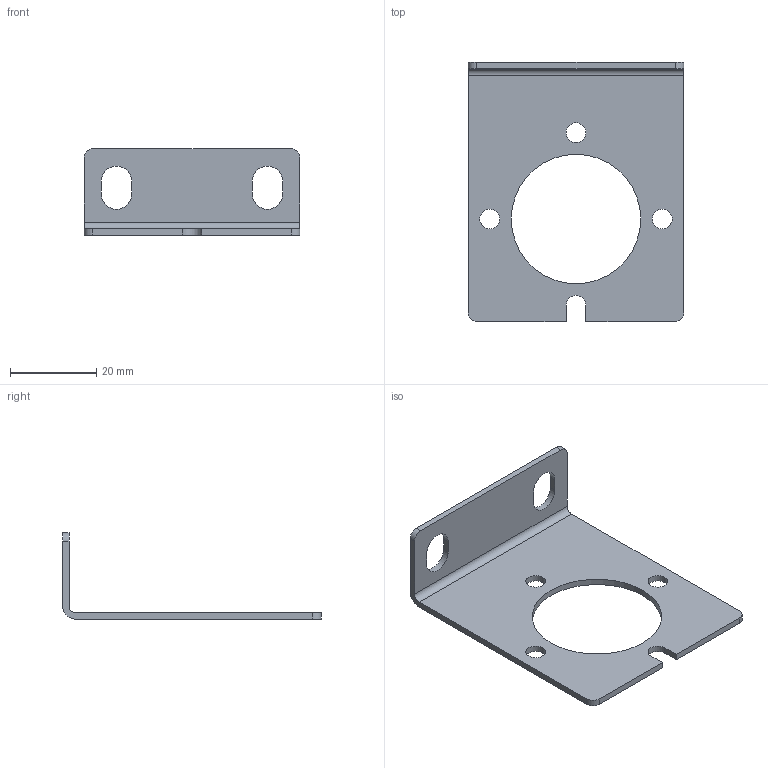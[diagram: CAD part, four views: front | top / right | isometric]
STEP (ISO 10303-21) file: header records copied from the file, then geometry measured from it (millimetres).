
FILE_DESCRIPTION((''),'2;1');
FILE_NAME('F:\AirCom-Produktdokumentation\Befestigungswinkel-Muttern\CAD\CAD AirCom\3D\B-SAR75Y57.stp','2007-06-18T13:07:19',('Frank Schroers'),(''),'Autodesk Inventor 2008','Autodesk Inventor 2008','');
FILE_SCHEMA(('AUTOMOTIVE_DESIGN { 1 0 10303 214 1 1 1 1 }'));
Length unit declared in the file: millimetre
Products named in the file (1): B-SAR75Y57
Bounding box: 50 x 60 x 20 mm (x, y, z)
Volume: 4458.1 mm3; surface area: 6627.1 mm2
Topology: 1 solids, 1 shells, 30 faces, 84 edges, 56 vertices
Faces by surface type: cylinder 15, plane 15
Full cylindrical faces by diameter (mm): 4.6 x3, 30 x1
Entity records: 1008 total; most frequent: DIRECTION 172, CARTESIAN_POINT 167, ORIENTED_EDGE 160, EDGE_CURVE 80, AXIS2_PLACEMENT_3D 61, VERTEX_POINT 56, VECTOR 50, LINE 50
